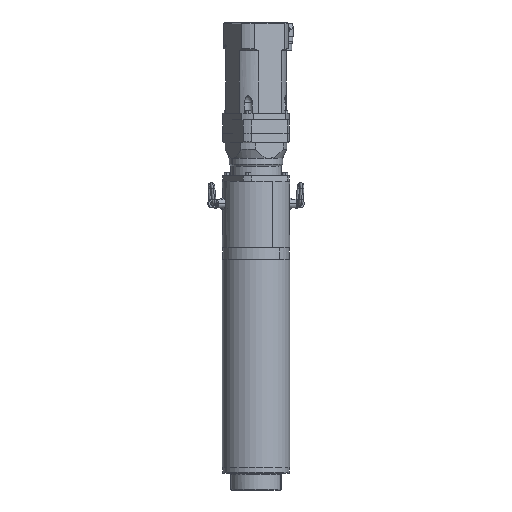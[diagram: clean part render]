
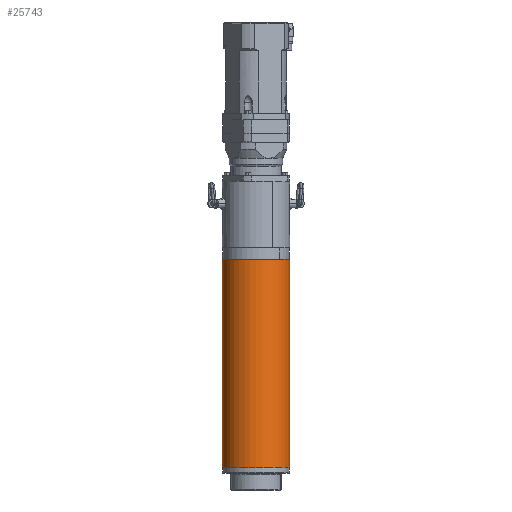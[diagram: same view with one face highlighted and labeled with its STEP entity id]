
A CAD part, front view. The second image highlights one B-rep face of the part: STEP entity #25743.
In plain terms, the highlighted cylindrical face has radius 120 mm (diameter 240 mm), a partial arc.
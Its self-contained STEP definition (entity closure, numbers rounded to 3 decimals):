
#787 = ORIENTED_EDGE ( 'NONE', *, *, #15787, .T. ) ;
#987 = LINE ( 'NONE', #23165, #23624 ) ;
#1656 = DIRECTION ( 'NONE',  ( 0., 0., -1. ) ) ;
#2444 = CIRCLE ( 'NONE', #12225, 120. ) ;
#2502 = CARTESIAN_POINT ( 'NONE',  ( 120., 0., 0. ) ) ;
#4130 = EDGE_CURVE ( 'NONE', #18201, #24617, #2444, .T. ) ;
#4828 = CARTESIAN_POINT ( 'NONE',  ( 0., 0., 0. ) ) ;
#6530 = VERTEX_POINT ( 'NONE', #7876 ) ;
#6669 = CARTESIAN_POINT ( 'NONE',  ( 120., 0., 20. ) ) ;
#7876 = CARTESIAN_POINT ( 'NONE',  ( -120., 0., 764. ) ) ;
#7900 = DIRECTION ( 'NONE',  ( -1., 0., 0. ) ) ;
#12225 = AXIS2_PLACEMENT_3D ( 'NONE', #32935, #14496, #36000 ) ;
#14496 = DIRECTION ( 'NONE',  ( 0., 0., -1. ) ) ;
#14565 = LINE ( 'NONE', #2502, #21771 ) ;
#15787 = EDGE_CURVE ( 'NONE', #23402, #6530, #27702, .T. ) ;
#16798 = DIRECTION ( 'NONE',  ( 0., 0., -1. ) ) ;
#18201 = VERTEX_POINT ( 'NONE', #6669 ) ;
#21002 = EDGE_LOOP ( 'NONE', ( #21766, #787, #38620, #32087 ) ) ;
#21766 = ORIENTED_EDGE ( 'NONE', *, *, #35533, .F. ) ;
#21771 = VECTOR ( 'NONE', #27137, 1000. ) ;
#23165 = CARTESIAN_POINT ( 'NONE',  ( -120., 0., 0. ) ) ;
#23402 = VERTEX_POINT ( 'NONE', #36843 ) ;
#23624 = VECTOR ( 'NONE', #1656, 1000. ) ;
#24617 = VERTEX_POINT ( 'NONE', #39846 ) ;
#25743 = ADVANCED_FACE ( 'NONE', ( #35037 ), #34066, .T. ) ;
#26345 = DIRECTION ( 'NONE',  ( 0., 0., -1. ) ) ;
#27137 = DIRECTION ( 'NONE',  ( 0., 0., -1. ) ) ;
#27702 = CIRCLE ( 'NONE', #33720, 120. ) ;
#30176 = EDGE_CURVE ( 'NONE', #6530, #24617, #987, .T. ) ;
#32087 = ORIENTED_EDGE ( 'NONE', *, *, #4130, .F. ) ;
#32935 = CARTESIAN_POINT ( 'NONE',  ( 0., 0., 20. ) ) ;
#33720 = AXIS2_PLACEMENT_3D ( 'NONE', #35227, #16798, #38275 ) ;
#34066 = CYLINDRICAL_SURFACE ( 'NONE', #38405, 120. ) ;
#35037 = FACE_OUTER_BOUND ( 'NONE', #21002, .T. ) ;
#35227 = CARTESIAN_POINT ( 'NONE',  ( 0., 0., 764. ) ) ;
#35533 = EDGE_CURVE ( 'NONE', #23402, #18201, #14565, .T. ) ;
#36000 = DIRECTION ( 'NONE',  ( -1., 0., 0. ) ) ;
#36843 = CARTESIAN_POINT ( 'NONE',  ( 120., 0., 764. ) ) ;
#38275 = DIRECTION ( 'NONE',  ( -1., 0., 0. ) ) ;
#38405 = AXIS2_PLACEMENT_3D ( 'NONE', #4828, #26345, #7900 ) ;
#38620 = ORIENTED_EDGE ( 'NONE', *, *, #30176, .T. ) ;
#39846 = CARTESIAN_POINT ( 'NONE',  ( -120., 0., 20. ) ) ;
